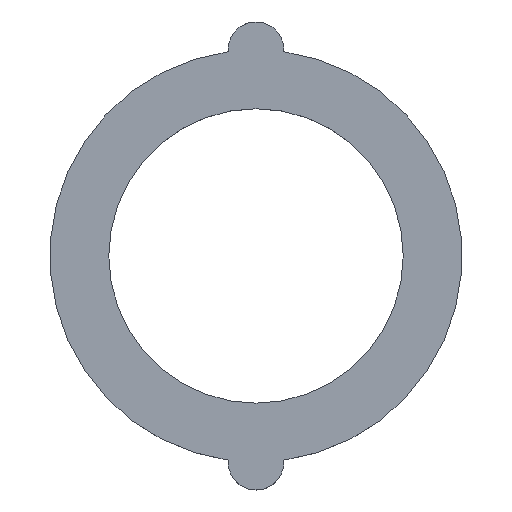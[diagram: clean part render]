
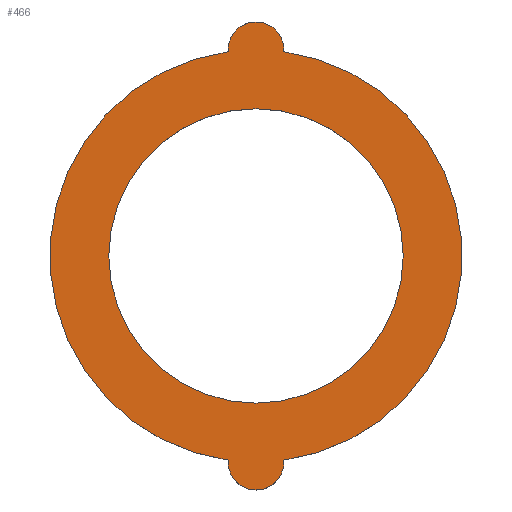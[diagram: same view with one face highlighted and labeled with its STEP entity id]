
A CAD part, top view. The second image highlights one B-rep face of the part: STEP entity #466.
In plain terms, the highlighted planar face has unit normal (0, 0, 1).
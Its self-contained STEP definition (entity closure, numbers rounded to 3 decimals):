
#24 = VERTEX_POINT('',#25);
#25 = CARTESIAN_POINT('',(-8.979,65.891,13.));
#31 = EDGE_CURVE('',#24,#32,#34,.T.);
#32 = VERTEX_POINT('',#33);
#33 = CARTESIAN_POINT('',(-8.979,-65.891,13.));
#34 = CIRCLE('',#35,66.5);
#35 = AXIS2_PLACEMENT_3D('',#36,#37,#38);
#36 = CARTESIAN_POINT('',(0.,0.,13.));
#37 = DIRECTION('',(0.,0.,1.));
#38 = DIRECTION('',(1.,0.,0.));
#66 = VERTEX_POINT('',#67);
#67 = CARTESIAN_POINT('',(8.979,65.891,13.));
#73 = EDGE_CURVE('',#66,#24,#74,.T.);
#74 = CIRCLE('',#75,9.);
#75 = AXIS2_PLACEMENT_3D('',#76,#77,#78);
#76 = CARTESIAN_POINT('',(0.,66.5,13.));
#77 = DIRECTION('',(0.,0.,1.));
#78 = DIRECTION('',(1.,0.,0.));
#253 = EDGE_CURVE('',#32,#254,#256,.T.);
#254 = VERTEX_POINT('',#255);
#255 = CARTESIAN_POINT('',(8.979,-65.891,13.));
#256 = CIRCLE('',#257,9.);
#257 = AXIS2_PLACEMENT_3D('',#258,#259,#260);
#258 = CARTESIAN_POINT('',(0.,-66.5,13.));
#259 = DIRECTION('',(0.,0.,1.));
#260 = DIRECTION('',(1.,0.,0.));
#466 = ADVANCED_FACE('',(#467,#479),#490,.T.);
#467 = FACE_BOUND('',#468,.T.);
#468 = EDGE_LOOP('',(#469,#470,#471,#478));
#469 = ORIENTED_EDGE('',*,*,#31,.T.);
#470 = ORIENTED_EDGE('',*,*,#253,.T.);
#471 = ORIENTED_EDGE('',*,*,#472,.T.);
#472 = EDGE_CURVE('',#254,#66,#473,.T.);
#473 = CIRCLE('',#474,66.5);
#474 = AXIS2_PLACEMENT_3D('',#475,#476,#477);
#475 = CARTESIAN_POINT('',(0.,0.,13.));
#476 = DIRECTION('',(0.,0.,1.));
#477 = DIRECTION('',(1.,0.,0.));
#478 = ORIENTED_EDGE('',*,*,#73,.T.);
#479 = FACE_BOUND('',#480,.F.);
#480 = EDGE_LOOP('',(#481));
#481 = ORIENTED_EDGE('',*,*,#482,.T.);
#482 = EDGE_CURVE('',#483,#483,#485,.T.);
#483 = VERTEX_POINT('',#484);
#484 = CARTESIAN_POINT('',(47.5,0.,13.));
#485 = CIRCLE('',#486,47.5);
#486 = AXIS2_PLACEMENT_3D('',#487,#488,#489);
#487 = CARTESIAN_POINT('',(0.,0.,13.));
#488 = DIRECTION('',(0.,0.,1.));
#489 = DIRECTION('',(1.,0.,0.));
#490 = PLANE('',#491);
#491 = AXIS2_PLACEMENT_3D('',#492,#493,#494);
#492 = CARTESIAN_POINT('',(0.,0.,13.));
#493 = DIRECTION('',(0.,0.,1.));
#494 = DIRECTION('',(1.,0.,0.));
